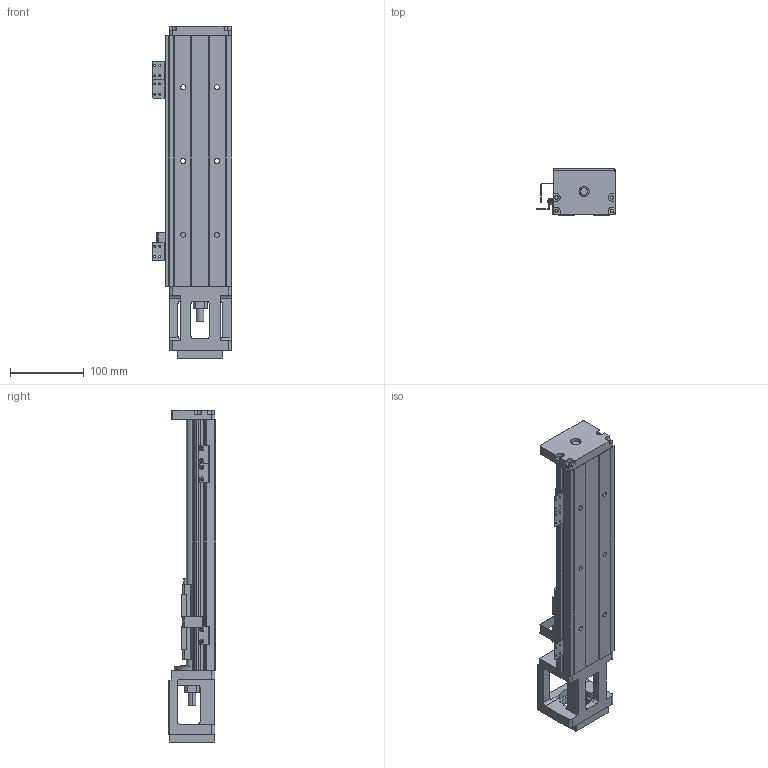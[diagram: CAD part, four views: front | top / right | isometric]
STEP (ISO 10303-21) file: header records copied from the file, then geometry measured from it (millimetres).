
FILE_DESCRIPTION (( 'STEP AP203' ), '1' );
FILE_NAME ('KH86D10C-340A1-F1S0.STEP', '2024-01-08T07:06:19', ( '' ), ( '' ), 'SwSTEP 2.0', 'SolidWorks 2016', '' );
FILE_SCHEMA (( 'CONFIG_CONTROL_DESIGN' ));
Length unit declared in the file: millimetre
Products named in the file (34): 86賑輸; FS-02-674; KH86-08-(SX674); KH86-F1; KK86-04-07G; KH86-綴釱_KK86-05-01; KH86D10C-340A1-F1S0; ヶ盓釱; 鞠褒蹟譫M3; KH86-A1; 囀鞠褒す埴芛蹟隊M3℅5; KH86-08-SX674; KK86-01-01-340
Assembly tree (20 placements, depth 3):
  FS-02-674
  KH86-F1
  KH86D10C-340A1-F1S0
    KK86-01-01-340
    KH86-A1
      86賑輸
    KH86-綴釱_KK86-05-01
    KH86-F1
    KH86-08-SX674  x2
      FS-02-674
      囀鞠褒す埴芛蹟隊M3℅5
      鞠褒蹟譫M3
    KH86-08-(SX674)
      FS-02-674
      囀鞠褒す埴芛蹟隊M3℅5  x2
      鞠褒蹟譫M3  x2
    KK86-04-07G
    ヶ盓釱
  ヶ盓釱
  FS-02-674
Bounding box: 108 x 64 x 450 mm (x, y, z)
Volume: 970664 mm3; surface area: 230914.2 mm2
Topology: 17 solids, 36 shells, 1075 faces, 2779 edges, 1765 vertices
Faces by surface type: plane 436, cylinder 335, cone 227, bspline 77
Entity records: 29276 total; most frequent: CARTESIAN_POINT 7829, ORIENTED_EDGE 3869, DIRECTION 3694, EDGE_CURVE 1937, AXIS2_PLACEMENT_3D 1277, VERTEX_POINT 1269, VECTOR 1140, LINE 1140
